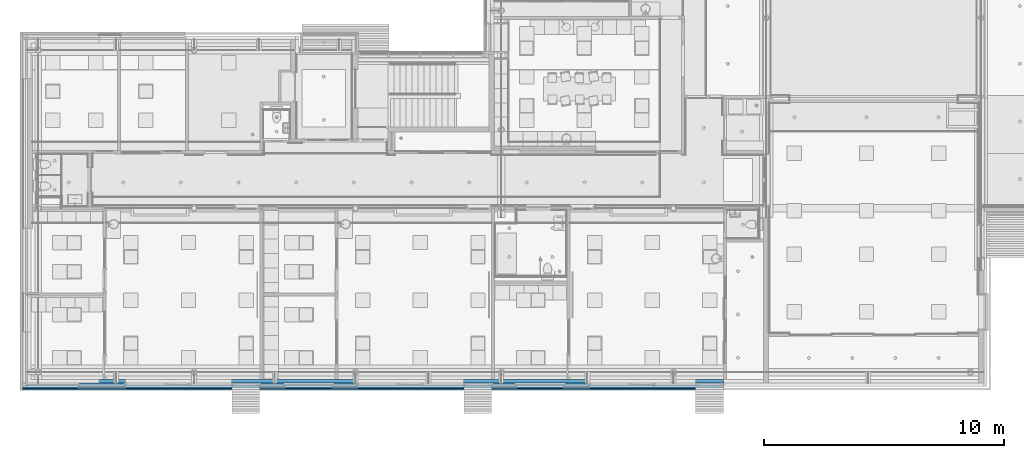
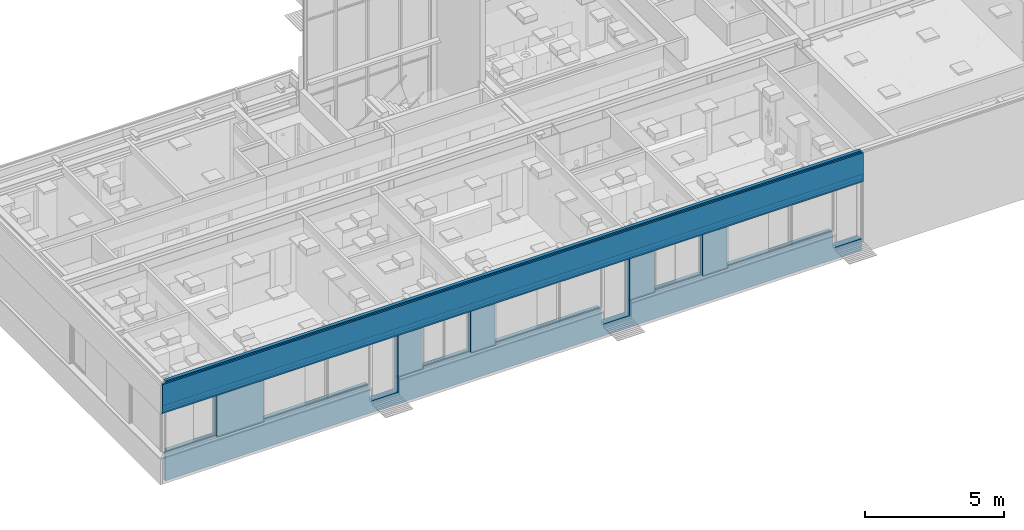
# One storey, part 90 of 347: 5 building element parts, 9 openings, 2 elements without a shape of their own.
"""IFC2X3 building model written with IfcOpenShell, lengths in millimetres."""

from ifc_helpers import new_model, entity, si_unit, converted_unit, derived_unit, money_unit, direction, frame, origin_with_axes, place, context, subcontext, project, spatial, faceted_brep, material, type_object, element, aggregate, save


model = new_model("IFC2X3")

# Units and contexts
model_context = context("Model", 3, precision=0.01, world=origin_with_axes(), true_north=direction((0.0, 1.0)))
plan_context = context("Plan", 3, precision=0.01, world=origin_with_axes(), true_north=direction((0.0, 1.0)))
body_context = subcontext(model_context, "Body", "Model", "MODEL_VIEW")
ifc_project = project(units=[si_unit("LENGTHUNIT", "METRE", prefix="MILLI"), si_unit("AREAUNIT", "SQUARE_METRE"), si_unit("VOLUMEUNIT", "CUBIC_METRE"), converted_unit("PLANEANGLEUNIT", "DEGREE", entity("IfcPlaneAngleMeasure", 0.0174532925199), si_unit("PLANEANGLEUNIT", "RADIAN"), dimensions=[0, 0, 0, 0, 0, 0, 0]), money_unit("EUR"), converted_unit("TIMEUNIT", "Year", entity("IfcTimeMeasure", 31556926.0), si_unit("TIMEUNIT", "SECOND"), dimensions=[0, 0, 1, 0, 0, 0, 0]), si_unit("MASSUNIT", "GRAM", prefix="KILO"), si_unit("THERMODYNAMICTEMPERATUREUNIT", "DEGREE_CELSIUS"), si_unit("LUMINOUSINTENSITYUNIT", "LUMEN"), si_unit("ENERGYUNIT", "JOULE", prefix="MEGA"), derived_unit("THERMALCONDUCTANCEUNIT", [(si_unit("POWERUNIT", "WATT"), 1), (si_unit("LENGTHUNIT", "METRE"), -1), (si_unit("THERMODYNAMICTEMPERATUREUNIT", "KELVIN"), -1)]), derived_unit("SPECIFICHEATCAPACITYUNIT", [(si_unit("ENERGYUNIT", "JOULE"), 1), (si_unit("MASSUNIT", "GRAM", prefix="KILO"), -1), (si_unit("THERMODYNAMICTEMPERATUREUNIT", "KELVIN"), -1)]), derived_unit("MASSDENSITYUNIT", [(si_unit("MASSUNIT", "GRAM", prefix="KILO"), 1), (si_unit("VOLUMEUNIT", "CUBIC_METRE"), -1)])], contexts=[model_context, plan_context])

# Site, building, storey
site_placement = place(None, origin_with_axes())
site = spatial("IfcSite", under=ifc_project, at=site_placement, Name="Site", CompositionType="ELEMENT")
building_placement = place(site_placement, origin_with_axes())
building = spatial("IfcBuilding", under=site, at=building_placement, Name="Naam gebouw", CompositionType="ELEMENT")
storey_placement = place(building_placement, origin_with_axes())
storey = spatial("IfcBuildingStorey", under=building, at=storey_placement, Name="begane grond", CompositionType="ELEMENT", Elevation=0.0)

# Wall, openings, building element parts
wall_type = type_object("IfcWallType", Name="22 beg hout (2600+) borstwering' 430 x 4390", PredefinedType="NOTDEFINED")
wall_placement = place(storey_placement, frame((5000.0, 5000.0, 0.0), z_axis=(0.0, 0.0, 1.0), x_axis=(1.0, 0.0, 0.0)))
wall = element("IfcWall", 1, at=wall_placement, inside=storey, type_object=wall_type, Name="21_21 betonwand")
opening_1_placement = place(wall_placement, frame((819.000049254, 0.0, 700.0), z_axis=(0.0, 0.0, 1.0), x_axis=(1.0, 0.0, 0.0)))
element("IfcOpeningElement", 2, at=opening_1_placement, cuts=wall, Name="31_-", context=body_context, shape_type="Brep", body=[
    faceted_brep([(1168.99995075, -860.000161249, 1900.0), (1168.99995075, -860.000161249, 0.0), (1168.99995075, -302.00008173, 0.0), (1168.99995075, -302.00008173, 1900.0), (-1168.99995075, -860.000161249, 1900.0), (-1168.99995075, -860.000161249, 0.0), (-1168.99995075, -302.00008173, 0.0), (-1168.99995075, -302.00008173, 1900.0)], [[[0, 1, 2, 3]], [[0, 4, 5, 1]], [[1, 5, 6, 2]], [[3, 2, 6, 7]], [[4, 0, 3, 7]], [[5, 4, 7, 6]]]),
    faceted_brep([(1168.99995075, 255.99999779, 0.0), (1168.99995075, 255.99999779, 1900.0), (1168.99995075, -302.00008173, 1900.0), (1168.99995075, -302.00008173, 0.0), (-1168.99995075, 255.99999779, 0.0), (-1168.99995075, 255.99999779, 1900.0), (-1168.99995075, -302.00008173, 1900.0), (-1168.99995075, -302.00008173, 0.0)], [[[0, 1, 2, 3]], [[0, 4, 5, 1]], [[1, 5, 6, 2]], [[3, 2, 6, 7]], [[4, 0, 3, 7]], [[5, 4, 7, 6]]]),
])
opening_2_placement = place(wall_placement, frame((6136.50135684, 0.0, 700.0), z_axis=(0.0, 0.0, 1.0), x_axis=(1.0, 0.0, 0.0)))
element("IfcOpeningElement", 3, at=opening_2_placement, cuts=wall, Name="31_-", context=body_context, shape_type="Brep", body=[
    faceted_brep([(2211.49864316, -860.000161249, 1900.0), (2211.49864316, -860.000161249, 0.0), (2211.49864316, -302.00008173, 0.0), (2211.49864316, -302.00008173, 1900.0), (-2211.49864316, -860.000161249, 1900.0), (-2211.49864316, -860.000161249, 0.0), (-2211.49864316, -302.00008173, 0.0), (-2211.49864316, -302.00008173, 1900.0)], [[[0, 1, 2, 3]], [[0, 4, 5, 1]], [[1, 5, 6, 2]], [[3, 2, 6, 7]], [[4, 0, 3, 7]], [[5, 4, 7, 6]]]),
    faceted_brep([(2211.49864316, 255.99999779, 0.0), (2211.49864316, 255.99999779, 1900.0), (2211.49864316, -302.00008173, 1900.0), (2211.49864316, -302.00008173, 0.0), (-2211.49864316, 255.99999779, 0.0), (-2211.49864316, 255.99999779, 1900.0), (-2211.49864316, -302.00008173, 1900.0), (-2211.49864316, -302.00008173, 0.0)], [[[0, 1, 2, 3]], [[0, 4, 5, 1]], [[1, 5, 6, 2]], [[3, 2, 6, 7]], [[4, 0, 3, 7]], [[5, 4, 7, 6]]]),
])
opening_3_placement = place(wall_placement, frame((8936.5, 0.0, 0.0), z_axis=(0.0, 0.0, 1.0), x_axis=(1.0, 0.0, 0.0)))
element("IfcOpeningElement", 4, at=opening_3_placement, cuts=wall, Name="31_-", context=body_context, shape_type="Brep", body=[
    faceted_brep([(588.5, -860.000161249, 2600.0), (588.5, -860.000161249, 0.0), (588.5, -302.00008173, 0.0), (588.5, -302.00008173, 2600.0), (-588.5, -860.000161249, 2600.0), (-588.5, -860.000161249, 0.0), (-588.5, -302.00008173, 0.0), (-588.5, -302.00008173, 2600.0)], [[[0, 1, 2, 3]], [[0, 4, 5, 1]], [[1, 5, 6, 2]], [[3, 2, 6, 7]], [[4, 0, 3, 7]], [[5, 4, 7, 6]]]),
    faceted_brep([(588.5, 255.99999779, 0.0), (588.5, 255.99999779, 2600.0), (588.5, -302.00008173, 2600.0), (588.5, -302.00008173, 0.0), (-588.5, 255.99999779, 0.0), (-588.5, 255.99999779, 2600.0), (-588.5, -302.00008173, 2600.0), (-588.5, -302.00008173, 0.0)], [[[0, 1, 2, 3]], [[0, 4, 5, 1]], [[1, 5, 6, 2]], [[3, 2, 6, 7]], [[4, 0, 3, 7]], [[5, 4, 7, 6]]]),
])
opening_4_placement = place(wall_placement, frame((28236.5, 0.0, 0.0), z_axis=(0.0, 0.0, 1.0), x_axis=(1.0, 0.0, 0.0)))
element("IfcOpeningElement", 5, at=opening_4_placement, cuts=wall, Name="31_-", context=body_context, shape_type="Brep", body=[
    faceted_brep([(588.5, -860.000161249, 2600.0), (588.5, -860.000161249, 0.0), (588.5, -302.00008173, 0.0), (588.5, -302.00008173, 2600.0), (-588.5, -860.000161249, 2600.0), (-588.5, -860.000161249, 0.0), (-588.5, -302.00008173, 0.0), (-588.5, -302.00008173, 2600.0)], [[[0, 1, 2, 3]], [[0, 4, 5, 1]], [[1, 5, 6, 2]], [[3, 2, 6, 7]], [[4, 0, 3, 7]], [[5, 4, 7, 6]]]),
    faceted_brep([(588.5, 255.99999779, 0.0), (588.5, 255.99999779, 2600.0), (588.5, -302.00008173, 2600.0), (588.5, -302.00008173, 0.0), (-588.5, 255.99999779, 0.0), (-588.5, 255.99999779, 2600.0), (-588.5, -302.00008173, 2600.0), (-588.5, -302.00008173, 0.0)], [[[0, 1, 2, 3]], [[0, 4, 5, 1]], [[1, 5, 6, 2]], [[3, 2, 6, 7]], [[4, 0, 3, 7]], [[5, 4, 7, 6]]]),
])
opening_5_placement = place(wall_placement, frame((25436.5013568, 0.0, 700.0), z_axis=(0.0, 0.0, 1.0), x_axis=(1.0, 0.0, 0.0)))
element("IfcOpeningElement", 6, at=opening_5_placement, cuts=wall, Name="31_-", context=body_context, shape_type="Brep", body=[
    faceted_brep([(2211.49864316, -860.000161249, 1900.0), (2211.49864316, -860.000161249, 0.0), (2211.49864316, -302.00008173, 0.0), (2211.49864316, -302.00008173, 1900.0), (-2211.49864316, -860.000161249, 1900.0), (-2211.49864316, -860.000161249, 0.0), (-2211.49864316, -302.00008173, 0.0), (-2211.49864316, -302.00008173, 1900.0)], [[[0, 1, 2, 3]], [[0, 4, 5, 1]], [[1, 5, 6, 2]], [[3, 2, 6, 7]], [[4, 0, 3, 7]], [[5, 4, 7, 6]]]),
    faceted_brep([(2211.49864316, 255.99999779, 0.0), (2211.49864316, 255.99999779, 1900.0), (2211.49864316, -302.00008173, 1900.0), (2211.49864316, -302.00008173, 0.0), (-2211.49864316, 255.99999779, 0.0), (-2211.49864316, 255.99999779, 1900.0), (-2211.49864316, -302.00008173, 1900.0), (-2211.49864316, -302.00008173, 0.0)], [[[0, 1, 2, 3]], [[0, 4, 5, 1]], [[1, 5, 6, 2]], [[3, 2, 6, 7]], [[4, 0, 3, 7]], [[5, 4, 7, 6]]]),
])
opening_6_placement = place(wall_placement, frame((18586.5, 0.0, 0.0), z_axis=(0.0, 0.0, 1.0), x_axis=(1.0, 0.0, 0.0)))
element("IfcOpeningElement", 7, at=opening_6_placement, cuts=wall, Name="31_-", context=body_context, shape_type="Brep", body=[
    faceted_brep([(588.5, -860.000161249, 2600.0), (588.5, -860.000161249, 0.0), (588.5, -302.00008173, 0.0), (588.5, -302.00008173, 2600.0), (-588.5, -860.000161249, 2600.0), (-588.5, -860.000161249, 0.0), (-588.5, -302.00008173, 0.0), (-588.5, -302.00008173, 2600.0)], [[[0, 1, 2, 3]], [[0, 4, 5, 1]], [[1, 5, 6, 2]], [[3, 2, 6, 7]], [[4, 0, 3, 7]], [[5, 4, 7, 6]]]),
    faceted_brep([(588.5, 255.99999779, 0.0), (588.5, 255.99999779, 2600.0), (588.5, -302.00008173, 2600.0), (588.5, -302.00008173, 0.0), (-588.5, 255.99999779, 0.0), (-588.5, 255.99999779, 2600.0), (-588.5, -302.00008173, 2600.0), (-588.5, -302.00008173, 0.0)], [[[0, 1, 2, 3]], [[0, 4, 5, 1]], [[1, 5, 6, 2]], [[3, 2, 6, 7]], [[4, 0, 3, 7]], [[5, 4, 7, 6]]]),
])
opening_7_placement = place(wall_placement, frame((15786.5013568, 0.0, 700.0), z_axis=(0.0, 0.0, 1.0), x_axis=(1.0, 0.0, 0.0)))
element("IfcOpeningElement", 8, at=opening_7_placement, cuts=wall, Name="31_-", context=body_context, shape_type="Brep", body=[
    faceted_brep([(2211.49864316, -860.000161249, 1900.0), (2211.49864316, -860.000161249, 0.0), (2211.49864316, -302.00008173, 0.0), (2211.49864316, -302.00008173, 1900.0), (-2211.49864316, -860.000161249, 1900.0), (-2211.49864316, -860.000161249, 0.0), (-2211.49864316, -302.00008173, 0.0), (-2211.49864316, -302.00008173, 1900.0)], [[[0, 1, 2, 3]], [[0, 4, 5, 1]], [[1, 5, 6, 2]], [[3, 2, 6, 7]], [[4, 0, 3, 7]], [[5, 4, 7, 6]]]),
    faceted_brep([(2211.49864316, 255.99999779, 0.0), (2211.49864316, 255.99999779, 1900.0), (2211.49864316, -302.00008173, 1900.0), (2211.49864316, -302.00008173, 0.0), (-2211.49864316, 255.99999779, 0.0), (-2211.49864316, 255.99999779, 1900.0), (-2211.49864316, -302.00008173, 1900.0), (-2211.49864316, -302.00008173, 0.0)], [[[0, 1, 2, 3]], [[0, 4, 5, 1]], [[1, 5, 6, 2]], [[3, 2, 6, 7]], [[4, 0, 3, 7]], [[5, 4, 7, 6]]]),
])
opening_8_placement = place(wall_placement, frame((11550.0013568, 0.0, 700.0), z_axis=(0.0, 0.0, 1.0), x_axis=(1.0, 0.0, 0.0)))
element("IfcOpeningElement", 9, at=opening_8_placement, cuts=wall, Name="31_-", context=body_context, shape_type="Brep", body=[
    faceted_brep([(1000.0, -860.000161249, 1900.0), (1000.0, -860.000161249, 0.0), (1000.0, -302.00008173, 0.0), (1000.0, -302.00008173, 1900.0), (-1000.0, -860.000161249, 1900.0), (-1000.0, -860.000161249, 0.0), (-1000.0, -302.00008173, 0.0), (-1000.0, -302.00008173, 1900.0)], [[[0, 1, 2, 3]], [[0, 4, 5, 1]], [[1, 5, 6, 2]], [[3, 2, 6, 7]], [[4, 0, 3, 7]], [[5, 4, 7, 6]]]),
    faceted_brep([(1000.0, 255.99999779, 0.0), (1000.0, 255.99999779, 1900.0), (1000.0, -302.00008173, 1900.0), (1000.0, -302.00008173, 0.0), (-1000.0, 255.99999779, 0.0), (-1000.0, 255.99999779, 1900.0), (-1000.0, -302.00008173, 1900.0), (-1000.0, -302.00008173, 0.0)], [[[0, 1, 2, 3]], [[0, 4, 5, 1]], [[1, 5, 6, 2]], [[3, 2, 6, 7]], [[4, 0, 3, 7]], [[5, 4, 7, 6]]]),
])
opening_9_placement = place(wall_placement, frame((21200.0013568, 0.0, 700.0), z_axis=(0.0, 0.0, 1.0), x_axis=(1.0, 0.0, 0.0)))
element("IfcOpeningElement", 10, at=opening_9_placement, cuts=wall, Name="31_-", context=body_context, shape_type="Brep", body=[
    faceted_brep([(1000.0, -860.000161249, 1900.0), (1000.0, -860.000161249, 0.0), (1000.0, -302.00008173, 0.0), (1000.0, -302.00008173, 1900.0), (-1000.0, -860.000161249, 1900.0), (-1000.0, -860.000161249, 0.0), (-1000.0, -302.00008173, 0.0), (-1000.0, -302.00008173, 1900.0)], [[[0, 1, 2, 3]], [[0, 4, 5, 1]], [[1, 5, 6, 2]], [[3, 2, 6, 7]], [[4, 0, 3, 7]], [[5, 4, 7, 6]]]),
    faceted_brep([(1000.0, 255.99999779, 0.0), (1000.0, 255.99999779, 1900.0), (1000.0, -302.00008173, 1900.0), (1000.0, -302.00008173, 0.0), (-1000.0, 255.99999779, 0.0), (-1000.0, 255.99999779, 1900.0), (-1000.0, -302.00008173, 1900.0), (-1000.0, -302.00008173, 0.0)], [[[0, 1, 2, 3]], [[0, 4, 5, 1]], [[1, 5, 6, 2]], [[3, 2, 6, 7]], [[4, 0, 3, 7]], [[5, 4, 7, 6]]]),
])
ifc_material_1 = material(Name="Steen - Kalkzandsteen C")
building_element_part_1_placement = place(wall_placement, origin_with_axes())
building_element_part_1 = element("IfcBuildingElementPart", 11, at=building_element_part_1_placement, material=ifc_material_1, Name="Steen - Kalkzandsteen C", context=body_context, shape_type="Brep", body=[
    faceted_brep([(2825.00271367, -149.999978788, 700.0), (-2.21049312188e-06, -149.999978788, 700.0), (-2.21049312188e-06, -149.999978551, -70.0), (10550.0013568, -149.999985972, -70.0), (12550.0013568, -149.999987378, -70.0), (20200.0013568, -149.999992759, -70.0), (22200.0013568, -149.999994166, -70.0), (28825.0, -149.999998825, -70.0), (28825.0, -150.000000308, 0.0), (27648.0, -149.999992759, 0.0), (27648.0, -150.000031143, 700.0), (23225.0027137, -150.000031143, 700.0), (23225.0027137, -150.000031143, 720.0), (23225.0027137, -149.999992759, 2600.0), (28825.0, -150.000055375, 2600.0), (28825.0, -150.000075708, 3560.0), (-2.21049312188e-06, -150.000075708, 3560.0), (-2.21049312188e-06, -150.000042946, 2600.0), (1988.0, -149.999994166, 2600.0), (1988.0, -149.999978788, 720.0), (2825.00271367, -149.999978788, 720.0), (3925.00271367, -150.0, 700.0), (3925.00271367, -150.0, 720.0), (3925.00271367, -149.999994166, 2600.0), (9525.0, -150.000075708, 2600.0), (9525.0, -150.000075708, 0.0), (8348.0, -150.000075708, 0.0), (8348.0, -150.0, 700.0), (13575.0027137, -150.000031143, 2600.0), (19175.0, -149.999992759, 2600.0), (19175.0, -149.999992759, 0.0), (17998.0, -149.999992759, 0.0), (17998.0, -149.99997201, 700.0), (13575.0027137, -149.99997201, 700.0), (13575.0027137, -149.99997201, 720.0), (10550.0013568, -149.999998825, 700.0), (10550.0013568, -149.999998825, 2600.0), (12550.0013568, -149.999998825, 2600.0), (12550.0013568, -149.999998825, 700.0), (22200.0013568, -149.999987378, 700.0), (20200.0013568, -149.999987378, 700.0), (20200.0013568, -149.999987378, 2600.0), (22200.0013568, -149.999987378, 2600.0), (2825.00271367, 0.0, 700.0), (1.7530934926e-05, 0.0, 700.0), (-1.9573977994e-06, -2.18215312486e-06, -70.0), (10550.0013568, -2.79895280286e-05, -70.0), (12550.0013568, -2.79895280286e-05, -70.0), (20200.0013568, -2.79895289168e-05, -70.0), (22200.0013568, -2.79895289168e-05, -70.0), (28825.0, -2.21049489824e-06, -70.0), (28825.0, -2.21049489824e-06, 0.0), (27648.0, -2.79895280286e-05, 0.0), (27648.0, -2.63503956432e-05, 700.0), (23225.0027137, -2.63503956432e-05, 700.0), (23225.0027137, -2.63503956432e-05, 720.0), (23225.0027137, -2.79895280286e-05, 2600.0), (28825.0, -2.21049489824e-06, 2600.0), (28825.0, -2.21049489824e-06, 3560.0), (13505.0, -2.21049401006e-06, 3560.0), (-2.21049312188e-06, -2.21049312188e-06, 3560.0), (4.46266490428e-06, -1.4632846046e-06, 2600.0), (1988.0, -2.21049489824e-06, 2600.0), (1988.0, 0.0, 720.0), (2825.00271367, 0.0, 720.0), (3925.00271367, 4.7930592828e-06, 700.0), (3925.00271367, 4.7930592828e-06, 720.0), (3925.00271367, -2.21049578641e-06, 2600.0), (9525.0, 0.0, 2600.0), (9525.0, 0.0, 0.0), (8348.0, 0.0, 0.0), (8348.0, 4.7930592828e-06, 700.0), (13575.0027137, -2.21049489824e-06, 2600.0), (19175.0, -2.79895280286e-05, 2600.0), (19175.0, -2.79895280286e-05, 0.0), (17998.0, -2.79895289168e-05, 0.0), (17998.0, 3.2782580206e-05, 700.0), (13575.0027137, 3.27825810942e-05, 700.0), (13575.0027137, 3.27825810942e-05, 720.0), (10550.0013568, -1.4632846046e-06, 700.0), (10550.0013568, -1.4632846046e-06, 2600.0), (12550.0013568, -1.4632846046e-06, 2600.0), (12550.0013568, -1.4632846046e-06, 700.0), (22200.0013568, 0.0, 700.0), (20200.0013568, 0.0, 700.0), (20200.0013568, 0.0, 2600.0), (22200.0013568, 0.0, 2600.0)], [[[0, 1, 2, 3, 4, 5, 6, 7, 8, 9, 10, 11, 12, 13, 14, 15, 16, 17, 18, 19, 20], [21, 22, 23, 24, 25, 26, 27], [28, 29, 30, 31, 32, 33, 34], [35, 36, 37, 38], [39, 40, 41, 42]], [[43, 44, 1, 0]], [[45, 2, 1, 44]], [[45, 46, 3, 2]], [[47, 4, 3, 46]], [[47, 48, 5, 4]], [[49, 6, 5, 48]], [[49, 50, 7, 6]], [[51, 8, 7, 50]], [[8, 51, 52, 9]], [[52, 53, 10, 9]], [[10, 53, 54, 11]], [[54, 55, 12, 11]], [[12, 55, 56, 13]], [[14, 13, 56, 57]], [[14, 57, 58, 15]], [[59, 60, 16, 15, 58]], [[60, 61, 17, 16]], [[17, 61, 62, 18]], [[18, 62, 63, 19]], [[20, 19, 63, 64]], [[64, 43, 0, 20]], [[21, 65, 66, 22]], [[23, 22, 66, 67]], [[24, 23, 67, 68]], [[69, 25, 24, 68]], [[70, 26, 25, 69]], [[71, 27, 26, 70]], [[71, 65, 21, 27]], [[72, 73, 29, 28]], [[30, 29, 73, 74]], [[31, 30, 74, 75]], [[32, 31, 75, 76]], [[77, 33, 32, 76]], [[34, 33, 77, 78]], [[72, 28, 34, 78]], [[79, 80, 36, 35]], [[80, 81, 37, 36]], [[81, 82, 38, 37]], [[82, 79, 35, 38]], [[39, 83, 84, 40]], [[40, 84, 85, 41]], [[41, 85, 86, 42]], [[42, 86, 83, 39]], [[46, 45, 44, 43, 64, 63, 62, 61, 60, 59, 58, 57, 56, 55, 54, 53, 52, 51, 50, 49, 48, 47], [68, 67, 66, 65, 71, 70, 69], [78, 77, 76, 75, 74, 73, 72], [79, 82, 81, 80], [85, 84, 83, 86]]]),
])
ifc_material_2 = material(Name="Isolatie - Kunststof hard")
building_element_part_2_placement = place(wall_placement, origin_with_axes())
building_element_part_2 = element("IfcBuildingElementPart", 12, at=building_element_part_2_placement, material=ifc_material_2, Name="Isolatie - Kunststof hard", context=body_context, shape_type="Brep", body=[
    faceted_brep([(23225.0027137, -289.999979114, 700.0), (22200.0013568, -289.999979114, 700.0), (22200.0013568, -209.999992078, 700.0), (23225.0027137, -209.999992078, 700.0), (20200.0013568, -289.999979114, 2600.0), (22200.0013568, -289.999979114, 2600.0), (23225.0027137, -289.999979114, 2600.0), (28825.0, -289.999979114, 2600.0), (28825.0, -289.999979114, 3880.0), (-149.999985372, -289.999979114, 3880.0), (-149.999982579, -289.999979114, 2600.0), (1988.0, -289.999979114, 2600.0), (1988.0, -289.999979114, 700.0), (3925.00271367, -289.999979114, 700.0), (3925.00271367, -289.999979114, 2600.0), (9525.0, -289.999979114, 2600.0), (9525.0, -289.999979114, 700.000001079), (10550.0013568, -289.999979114, 700.0), (10550.0013568, -289.999979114, 2600.0), (12550.0013568, -289.999979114, 2600.0), (12550.0013568, -289.999979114, 700.0), (13575.0027137, -289.999979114, 700.0), (13575.0027137, -289.999979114, 2600.0), (19175.0, -289.999979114, 2600.0), (19175.0, -289.999979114, 700.000000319), (20200.0013568, -289.999979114, 700.0), (22200.0013568, -149.999976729, 2600.0), (22200.0013568, -149.999976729, 700.0), (20200.0013568, -209.999992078, 700.0), (19175.0, -209.999992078, 700.000000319), (19175.0, -209.999971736, 697.961793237), (27648.0, -209.999971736, 697.961793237), (27648.0, -209.999992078, 700.0), (23225.0027137, -149.999976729, 700.0), (23225.0027137, -149.999976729, 2600.0), (20200.0013568, -149.999976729, 2600.0), (28825.0, -149.999982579, 2600.0), (28825.0, -149.999985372, 3880.0), (-149.999985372, -149.999985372, 3880.0), (-149.999982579, -149.999982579, 2600.0), (1988.0, -149.999976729, 2600.0), (1988.0, -149.999976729, 700.0), (1988.0, -209.999992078, 700.0), (3925.00271367, -209.999992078, 700.0), (3925.00271367, -149.999978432, 700.0), (3925.00271367, -149.999978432, 2600.0), (9525.0, -149.999985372, 2600.0), (9525.0, -149.999985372, 0.0), (9525.0, -289.999979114, 0.0), (9525.0, -289.999979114, 655.000000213), (9525.0, -209.999992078, 655.000000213), (9525.0, -209.999971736, 697.961793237), (9525.0, -209.999992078, 700.000001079), (10550.0013568, -209.999992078, 700.0), (10550.0013568, -149.999976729, 2600.0), (10550.0013568, -149.999976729, 700.0), (12550.0013568, -149.999976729, 2600.0), (12550.0013568, -149.999976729, 700.0), (12550.0013568, -209.999992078, 700.0), (13575.0027137, -209.999992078, 700.0), (13575.0027137, -149.999985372, 700.0), (13575.0027137, -149.999985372, 2600.0), (19175.0, -149.999976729, 2600.0), (19175.0, -149.999976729, 0.0), (19175.0, -289.999979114, 0.0), (19175.0, -289.999979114, 655.0000086), (19175.0, -209.999992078, 655.0000086), (20200.0013568, -149.999976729, 700.0), (27648.0, -149.999976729, 700.0), (27648.0, -149.999976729, 0.0), (28825.0, -149.999976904, 0.0), (28825.0, -149.999976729, -80.0000207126), (-149.999976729, -149.999976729, -80.0000207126), (-149.999978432, -149.999978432, 700.0), (8348.0, -149.999978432, 700.0), (8348.0, -149.999985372, 0.0), (17998.0, -149.999976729, 700.0), (17998.0, -149.999976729, 0.0), (27648.0, -209.999992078, 655.000015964), (27648.0, -289.999979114, 655.000015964), (27648.0, -289.999979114, 0.0), (-149.999978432, -209.999992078, 700.0), (-149.999978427, -209.999971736, 697.961793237), (8348.0, -209.999971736, 697.961793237), (8348.0, -209.999992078, 700.0), (8348.0, -289.999979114, 0.0), (8348.0, -289.999979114, 654.99999919), (-149.999978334, -289.999979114, 654.999991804), (-149.999976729, -289.999979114, -80.0000207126), (-149.999985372, -289.999979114, -510.0), (28825.0, -289.999979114, -510.0), (28825.0, -289.999979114, 0.0), (17998.0, -289.999979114, 0.0), (17998.0, -289.999979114, 655.000007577), (17998.0, -209.999992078, 655.000007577), (17998.0, -209.999971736, 697.961793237), (17998.0, -209.999992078, 700.0), (28825.0, -149.999985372, -510.0), (-149.999985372, -149.999985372, -510.0), (-149.999978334, -209.999992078, 654.999991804), (8348.0, -209.999992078, 654.99999919)], [[[0, 1, 2, 3]], [[4, 5, 1, 0, 6, 7, 8, 9, 10, 11, 12, 13, 14, 15, 16, 17, 18, 19, 20, 21, 22, 23, 24, 25]], [[5, 26, 27, 2, 1]], [[3, 2, 28, 29, 30, 31, 32]], [[6, 0, 3, 33, 34]], [[4, 35, 26, 5]], [[7, 6, 34, 36]], [[7, 36, 37, 8]], [[37, 38, 9, 8]], [[38, 39, 10, 9]], [[10, 39, 40, 11]], [[40, 41, 42, 12, 11]], [[12, 42, 43, 13]], [[13, 43, 44, 45, 14]], [[15, 14, 45, 46]], [[15, 46, 47, 48, 49, 50, 51, 52, 16]], [[53, 17, 16, 52]], [[54, 18, 17, 53, 55]], [[54, 56, 19, 18]], [[57, 58, 20, 19, 56]], [[20, 58, 59, 21]], [[21, 59, 60, 61, 22]], [[61, 62, 23, 22]], [[23, 62, 63, 64, 65, 66, 30, 29, 24]], [[29, 28, 25, 24]], [[28, 67, 35, 4, 25]], [[68, 69, 70, 71, 72, 73, 41, 40, 39, 38, 37, 36, 34, 33], [74, 75, 47, 46, 45, 44], [61, 60, 76, 77, 63, 62], [55, 57, 56, 54], [35, 67, 27, 26]], [[2, 27, 67, 28]], [[78, 31, 30, 66]], [[32, 31, 78, 79, 80, 69, 68]], [[3, 32, 68, 33]], [[42, 41, 73, 81]], [[82, 83, 84, 43, 42, 81]], [[74, 44, 43, 84]], [[75, 85, 48, 47]], [[86, 87, 88, 89, 90, 91, 80, 79, 65, 64, 92, 93, 49, 48, 85]], [[50, 49, 93, 94]], [[51, 50, 94, 95]], [[51, 95, 96, 59, 58, 53, 52]], [[57, 55, 53, 58]], [[76, 60, 59, 96]], [[92, 64, 63, 77]], [[79, 78, 66, 65]], [[91, 70, 69, 80]], [[71, 70, 91, 90, 97]], [[97, 98, 72, 71]], [[88, 87, 99, 82, 81, 73, 72]], [[84, 83, 100, 86, 85, 75, 74]], [[76, 96, 95, 94, 93, 92, 77]], [[83, 82, 99, 100]], [[100, 99, 87, 86]], [[98, 89, 88, 72]], [[90, 89, 98, 97]]]),
])
ifc_material_3 = material(Name="Steen - Baksteen")
building_element_part_3_placement = place(wall_placement, origin_with_axes())
building_element_part_3 = element("IfcBuildingElementPart", 13, at=building_element_part_3_placement, material=ifc_material_3, Name="Steen - Baksteen", context=body_context, shape_type="Brep", body=[
    faceted_brep([(-360.000022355, -360.000022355, 2599.99997855), (-360.000022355, -360.000022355, 3880.00000823), (28825.0, -360.000022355, 3880.00000823), (28825.0, -360.000022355, 2599.99997855), (-360.000022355, -430.00008173, 3880.00000823), (-360.000022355, -430.00008173, 2599.99997855), (28825.0, -430.00008173, 3880.00000823), (28825.0, -430.00008173, 2599.99997855)], [[[0, 1, 2, 3]], [[4, 1, 0, 5]], [[1, 4, 6, 2]], [[7, 3, 2, 6]], [[5, 0, 3, 7]], [[4, 5, 7, 6]]]),
])
aggregate(wall, [building_element_part_1, building_element_part_2, building_element_part_3])

# Beam, building element parts
beam_type = type_object("IfcBeamType", Name="21 geveldrager (2600+) 208 x 300", PredefinedType="LINTEL")
beam_placement = place(storey_placement, frame((5000.0, 5000.0, 0.0), z_axis=(0.0, 0.0, 1.0), x_axis=(0.0, -1.0, 0.0)))
beam = element("IfcBeam", 14, at=beam_placement, inside=storey, type_object=beam_type, Name="21_21 geveldrager", ObjectType="LINTEL")
ifc_material_4 = material(Name="Metaal - Staal C")
building_element_part_4_placement = place(beam_placement, origin_with_axes())
building_element_part_4 = element("IfcBuildingElementPart", 15, at=building_element_part_4_placement, material=ifc_material_4, Name="Metaal - Staal C", context=body_context, shape_type="Brep", body=[
    faceted_brep([(359.999999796, 28825.0, 2605.00000002), (359.999999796, 28825.0, 2900.00000119), (359.999999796, -359.999999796, 2900.00000119), (359.999999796, -359.999999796, 2605.00000002), (430.000000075, 28825.0, 2605.00000002), (430.000000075, 28825.0, 2600.0), (354.999995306, 28825.0, 2600.0), (354.999995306, 28825.0, 2601.0), (354.999995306, 28825.0, 2900.00000119), (354.999995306, -354.999995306, 2900.00000119), (354.999995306, -354.999995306, 2601.0), (354.999995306, -354.999995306, 2600.0), (430.000000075, -430.000000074, 2600.0), (430.000000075, -430.000000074, 2605.00000002)], [[[0, 1, 2, 3]], [[0, 4, 5, 6, 7, 8, 1]], [[1, 8, 9, 2]], [[3, 2, 9, 10, 11, 12, 13]], [[4, 0, 3, 13]], [[5, 4, 13, 12]], [[6, 5, 12, 11]], [[7, 6, 11, 10]], [[8, 7, 10, 9]]]),
])
building_element_part_5_placement = place(beam_placement, origin_with_axes())
building_element_part_5 = element("IfcBuildingElementPart", 16, at=building_element_part_5_placement, material=ifc_material_4, Name="Metaal - Staal C", context=body_context, shape_type="Brep", body=[
    faceted_brep([(354.999996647, 28825.0, 2601.0), (222.0, 28825.0, 2601.0), (222.0, -222.0, 2601.0), (354.999996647, -354.999996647, 2601.0), (354.999996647, 28825.0, 2600.0), (222.0, 28825.0, 2600.0), (222.0, -222.0, 2600.0), (354.999996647, -354.999996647, 2600.0)], [[[0, 1, 2, 3]], [[0, 4, 5, 1]], [[1, 5, 6, 2]], [[3, 2, 6, 7]], [[4, 0, 3, 7]], [[5, 4, 7, 6]]]),
])
aggregate(beam, [building_element_part_4, building_element_part_5])

save(model, "model.ifc")
